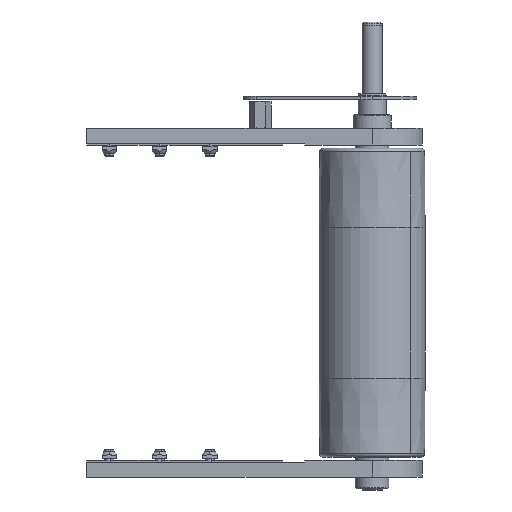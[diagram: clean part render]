
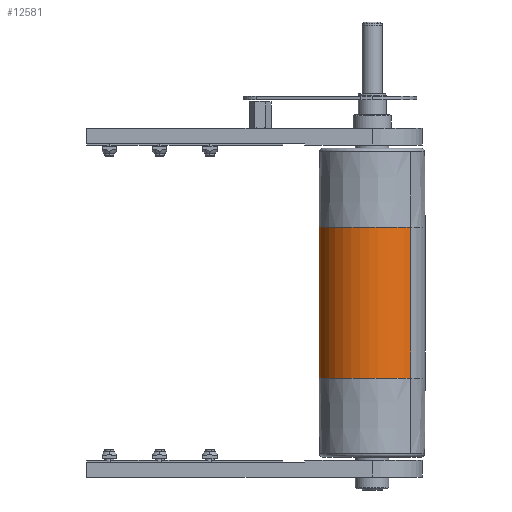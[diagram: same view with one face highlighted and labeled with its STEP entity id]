
A CAD part, front view. The second image highlights one B-rep face of the part: STEP entity #12581.
In plain terms, the highlighted cylindrical face has radius 47.5 mm (diameter 95 mm), a partial arc.
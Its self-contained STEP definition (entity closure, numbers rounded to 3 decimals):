
#132 = FACE_OUTER_BOUND ( 'NONE', #11543, .T. ) ;
#396 = CARTESIAN_POINT ( 'NONE',  ( 135., 0., 0. ) ) ;
#1433 = EDGE_CURVE ( 'NONE', #5292, #6245, #8775, .T. ) ;
#1476 = VERTEX_POINT ( 'NONE', #17895 ) ;
#1753 = DIRECTION ( 'NONE',  ( -1., 0., 0. ) ) ;
#2373 = CARTESIAN_POINT ( 'NONE',  ( 67.5, 0., 0. ) ) ;
#2987 = CARTESIAN_POINT ( 'NONE',  ( 67.5, 0., -47.5 ) ) ;
#3488 = CIRCLE ( 'NONE', #17016, 47.5 ) ;
#4237 = VECTOR ( 'NONE', #16991, 1000. ) ;
#4945 = ORIENTED_EDGE ( 'NONE', *, *, #9433, .T. ) ;
#5292 = VERTEX_POINT ( 'NONE', #2987 ) ;
#5325 = ORIENTED_EDGE ( 'NONE', *, *, #1433, .F. ) ;
#5666 = CARTESIAN_POINT ( 'NONE',  ( -67.5, 0., 47.5 ) ) ;
#6245 = VERTEX_POINT ( 'NONE', #11863 ) ;
#7251 = VERTEX_POINT ( 'NONE', #5666 ) ;
#7551 = EDGE_CURVE ( 'NONE', #7251, #6245, #18160, .T. ) ;
#8031 = EDGE_CURVE ( 'NONE', #1476, #5292, #3488, .T. ) ;
#8712 = ORIENTED_EDGE ( 'NONE', *, *, #7551, .T. ) ;
#8775 = LINE ( 'NONE', #19301, #4237 ) ;
#9433 = EDGE_CURVE ( 'NONE', #1476, #7251, #13830, .T. ) ;
#10666 = CARTESIAN_POINT ( 'NONE',  ( 135., 0., 47.5 ) ) ;
#11007 = DIRECTION ( 'NONE',  ( 0., 0., 1. ) ) ;
#11463 = DIRECTION ( 'NONE',  ( 1., 0., 0. ) ) ;
#11543 = EDGE_LOOP ( 'NONE', ( #5325, #18442, #4945, #8712 ) ) ;
#11863 = CARTESIAN_POINT ( 'NONE',  ( -67.5, 0., -47.5 ) ) ;
#12581 = ADVANCED_FACE ( 'NONE', ( #132 ), #17184, .T. ) ;
#13306 = AXIS2_PLACEMENT_3D ( 'NONE', #15660, #21690, #20815 ) ;
#13830 = LINE ( 'NONE', #10666, #18355 ) ;
#15660 = CARTESIAN_POINT ( 'NONE',  ( -67.5, 0., 0. ) ) ;
#16201 = DIRECTION ( 'NONE',  ( 0., 0., -1. ) ) ;
#16991 = DIRECTION ( 'NONE',  ( -1., 0., 0. ) ) ;
#17016 = AXIS2_PLACEMENT_3D ( 'NONE', #2373, #11463, #16201 ) ;
#17184 = CYLINDRICAL_SURFACE ( 'NONE', #18124, 47.5 ) ;
#17895 = CARTESIAN_POINT ( 'NONE',  ( 67.5, 0., 47.5 ) ) ;
#18124 = AXIS2_PLACEMENT_3D ( 'NONE', #396, #1753, #11007 ) ;
#18160 = CIRCLE ( 'NONE', #13306, 47.5 ) ;
#18355 = VECTOR ( 'NONE', #19944, 1000. ) ;
#18442 = ORIENTED_EDGE ( 'NONE', *, *, #8031, .F. ) ;
#19301 = CARTESIAN_POINT ( 'NONE',  ( 135., 0., -47.5 ) ) ;
#19944 = DIRECTION ( 'NONE',  ( -1., 0., 0. ) ) ;
#20815 = DIRECTION ( 'NONE',  ( 0., 0., -1. ) ) ;
#21690 = DIRECTION ( 'NONE',  ( 1., 0., 0. ) ) ;
